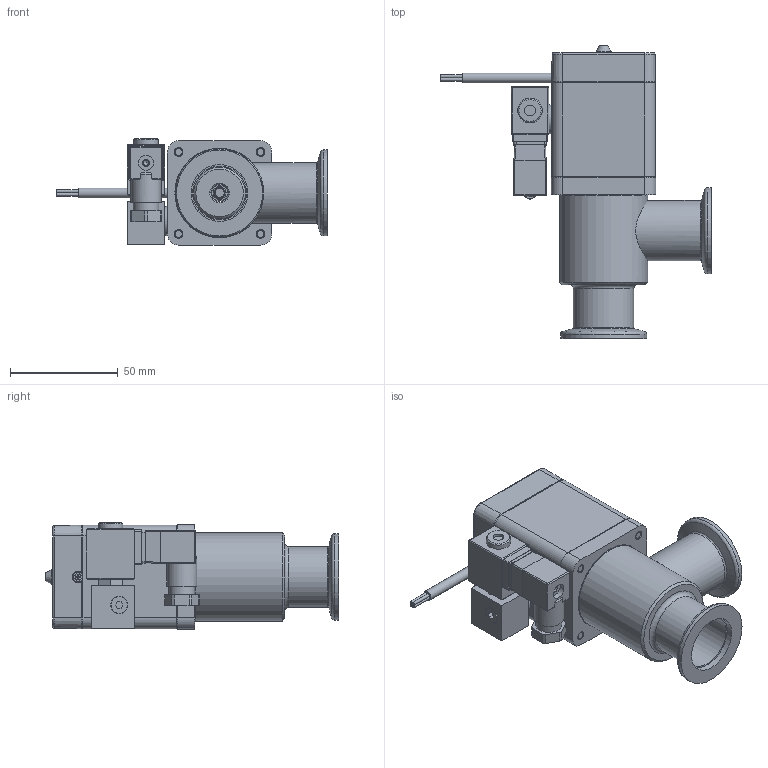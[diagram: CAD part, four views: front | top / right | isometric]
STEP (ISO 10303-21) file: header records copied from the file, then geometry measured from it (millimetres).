
FILE_DESCRIPTION(/* description */ (''),/* implementation_level */ '2;1');
FILE_NAME(/* name */ '1585752617_203.stp',/* time_stamp */ '2014-08-12T10:19:14+02:00',/* author */ (''),/* organization */ (''),/* preprocessor_version */ 'ST-DEVELOPER v11',/* originating_system */ 'SIEMENS PLM Software NX 7.5',/* authorisation */ '');
FILE_SCHEMA (('AP203_CONFIGURATION_CONTROLLED_3D_DESIGN_OF_MECHANICAL_PARTS_AND_ASSEMBLIES_MIM_LF'));
Length unit declared in the file: millimetre
Products named in the file (16): 239888_6.1; 233359; 236204_1.1; 245690.2; 245689.5; 245688.7; 238513.2; 238512.3; 239359.4; 245188.1; 243878.2; 238487.6; 402922; 245687.12; 235683.15_NX-ARRAGMNTZUSAMMENST1; 390745
Assembly tree (19 placements, depth 3):
  390745
    238487.6
    235683.15_NX-ARRAGMNTZUSAMMENST1
      238512.3
      238513.2
    245687.12
      245688.7
      245689.5
      245690.2
    243878.2
    245188.1  x4
    239359.4
    402922
      236204_1.1  x2
      233359
      239888_6.1
Bounding box: 125.57 x 135.9 x 49.3 mm (x, y, z)
Volume: 134785.6 mm3; surface area: 83680.3 mm2
Topology: 25 solids, 25 shells, 717 faces, 1682 edges, 1084 vertices
Faces by surface type: plane 404, cylinder 197, cone 75, bspline 20, torus 17, sphere 4
Full cylindrical faces by diameter (mm): 1.4 x8, 2.5 x4, 2.95 x1, 3 x8, 3.26 x4, 3.3 x5, 4 x12, 4.2 x1, 4.4 x1, 4.5 x4, 4.6 x1, 4.7 x3, 5 x4, 5.1 x1, 5.6 x2, 6 x4, 7 x5, 7.4 x2, 7.6 x1, 7.9 x1, 7.975 x3, 8 x6, 8.012 x2, 9.25 x1, 10.2 x1, 11.3 x1, 11.4 x1, 11.5 x2, 12 x1, 13.5 x1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
Entity records: 20877 total; most frequent: CARTESIAN_POINT 4085, DIRECTION 2988, ORIENTED_EDGE 2674, EDGE_CURVE 1337, AXIS2_PLACEMENT_3D 1090, VERTEX_POINT 965, EDGE_LOOP 920, LINE 808
